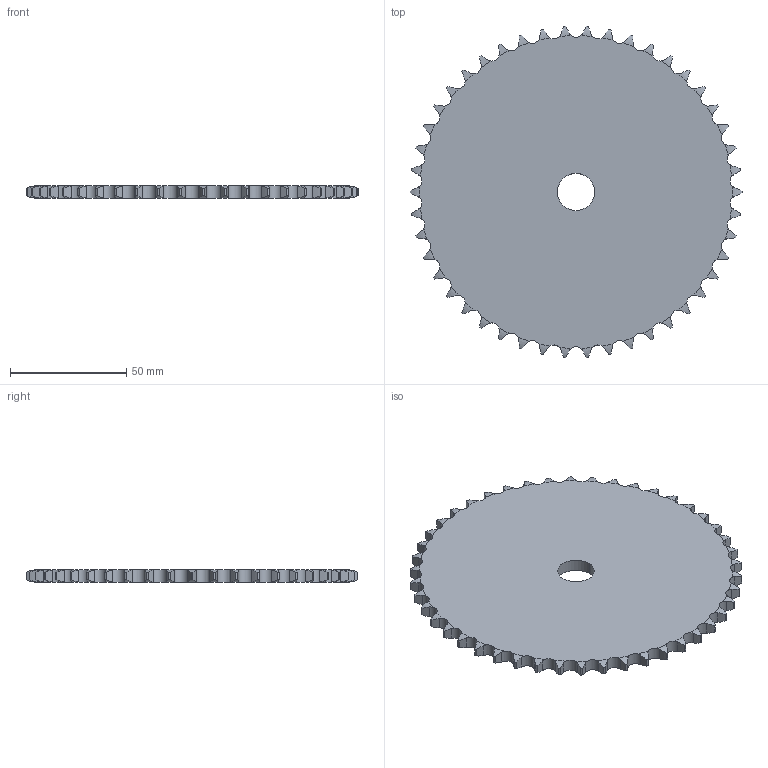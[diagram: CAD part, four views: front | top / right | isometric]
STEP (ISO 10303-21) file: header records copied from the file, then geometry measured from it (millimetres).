
FILE_DESCRIPTION((''),'2;1');
FILE_NAME('500-101-0046_PRT','2021-02-12T',('Brieden'),('Brieden'),'PRO/ENGINEER BY PARAMETRIC TECHNOLOGY CORPORATION, 2010160','PRO/ENGINEER BY PARAMETRIC TECHNOLOGY CORPORATION, 2010160','');
FILE_SCHEMA(('AUTOMOTIVE_DESIGN { 1 0 10303 214 1 1 1 1 }'));
Length unit declared in the file: millimetre
Products named in the file (1): 500-101-0046_PRT
Bounding box: 143.08 x 142.8 x 5.3 mm (x, y, z)
Volume: 76562.6 mm3; surface area: 32540.1 mm2
Topology: 1 solids, 1 shells, 280 faces, 834 edges, 556 vertices
Faces by surface type: cylinder 186, torus 92, plane 2
Entity records: 13734 total; most frequent: CARTESIAN_POINT 4089, ORIENTED_EDGE 1668, DIRECTION 1306, PRESENTATION_STYLE_ASSIGNMENT 835, STYLED_ITEM 835, CURVE_STYLE 834, EDGE_CURVE 834, AXIS2_PLACEMENT_3D 560
